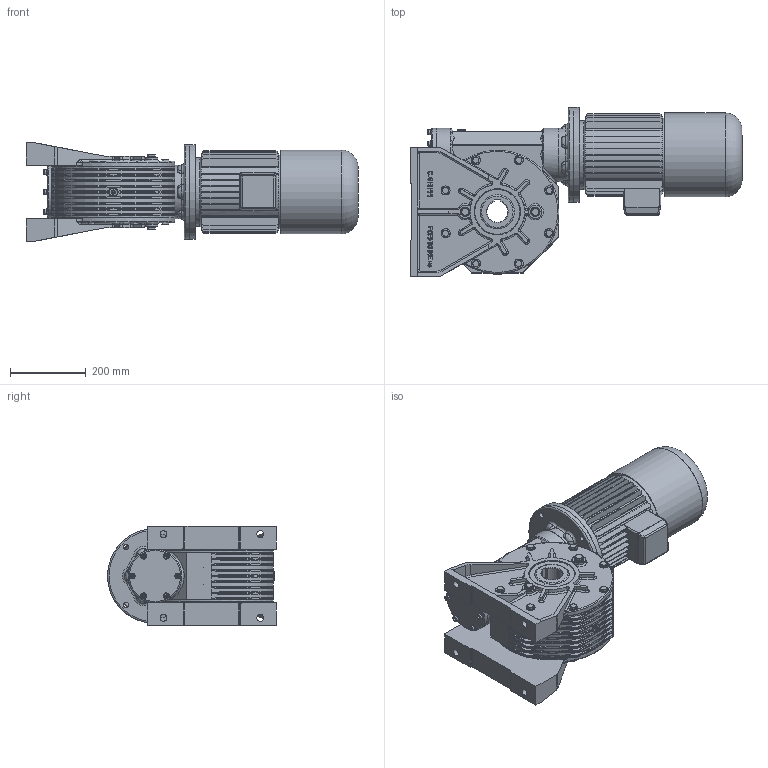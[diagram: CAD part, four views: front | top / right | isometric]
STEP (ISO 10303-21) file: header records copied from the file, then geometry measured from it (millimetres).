
FILE_DESCRIPTION((''),'2;1');
FILE_NAME('Y:\Archivi Inventor\Prog_01\GRAND_70\complessivi\Figurini\mrv70 sito\112 autofrenante\MRV70_P3_112_B5.stp','2013-02-08T14:55:45',('tech3'),(''),'Autodesk Inventor 2013','Autodesk Inventor 2013','');
FILE_SCHEMA(('AUTOMOTIVE_DESIGN { 1 0 10303 214 1 1 1 1 }'));
Length unit declared in the file: millimetre
Products named in the file (17): MRV70_100L_112M_B5; MRV70 figurino; 0107001-A0 figurino; 0107008.A0 figurino; 0107010.A0 figurino; 0107029; 0107009; 0107028; DIN 3760 AS AS - 90 x 120 x 12 - NBR; UNI 8839 A 8; Guarnizione 3_8 GAS; Tappo 3_8 GAS_esagn_incsst; DIN EN ISO 4762 M8 x 20; DIN EN 24017 M10 x 20; Tappo3_8 GAS; 0107006; motori B5 brake 112
Assembly tree (60 placements, depth 3):
  MRV70_100L_112M_B5
    MRV70 figurino
      0107001-A0 figurino
      0107008.A0 figurino
      0107010.A0 figurino  x2
      0107029  x2
      0107009
      0107028  x2
      DIN 3760 AS AS - 90 x 120 x 12 - NBR  x2
      UNI 8839 A 8  x6
      Guarnizione 3_8 GAS  x6
      Tappo 3_8 GAS_esagn_incsst  x2
      DIN EN ISO 4762 M8 x 20  x6
      DIN EN 24017 M10 x 20  x16
      Tappo3_8 GAS  x4
    0107006
    DIN EN ISO 4762 M8 x 20  x6
    motori B5 brake 112
Bounding box: 874.4 x 445 x 260.8 mm (x, y, z)
Volume: 26168413.6 mm3; surface area: 2463361.3 mm2
Topology: 60 solids, 60 shells, 2974 faces, 7357 edges, 4533 vertices
Faces by surface type: plane 1230, cylinder 668, bspline 655, cone 208, torus 205, sphere 8
Full cylindrical faces by diameter (mm): 2 x2, 5 x1, 6.647 x12, 8 x14, 8.376 x16, 8.5 x24, 10 x16, 10.5 x16, 11 x16, 13 x12, 13.046 x4, 14 x8, 14.63 x16, 14.95 x6, 16.3 x6, 16.5 x2, 18 x4, 20 x6, 22 x12, 24 x18, 25 x4, 28 x1, 61 x1, 75 x1, 90 x4, 97.2 x2, 100 x6, 114 x2, 120 x4, 139 x2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
Entity records: 66715 total; most frequent: CARTESIAN_POINT 24609, ORIENTED_EDGE 8580, DIRECTION 7878, EDGE_CURVE 4290, AXIS2_PLACEMENT_3D 3003, VERTEX_POINT 2761, EDGE_LOOP 2225, VECTOR 1872
